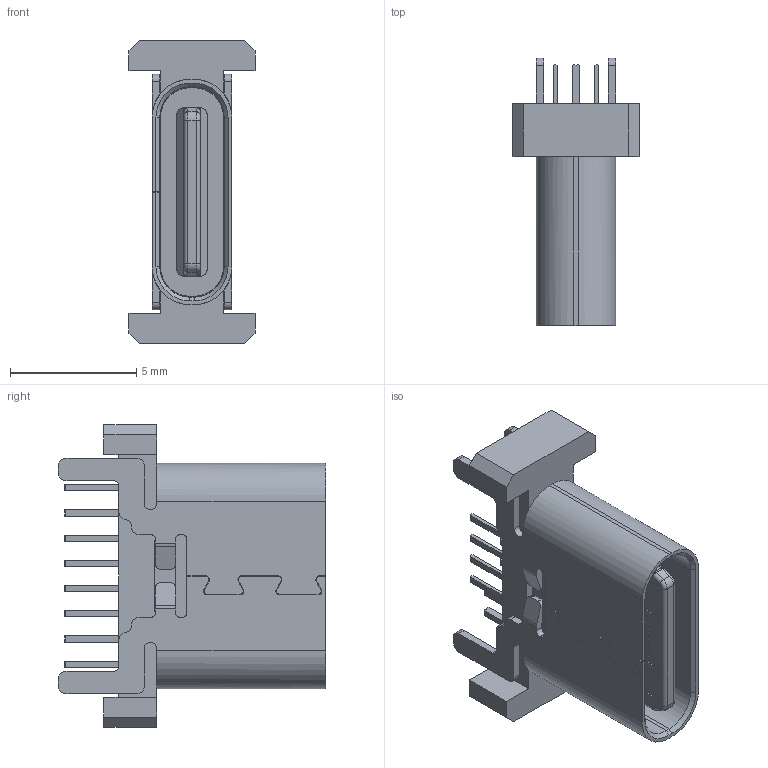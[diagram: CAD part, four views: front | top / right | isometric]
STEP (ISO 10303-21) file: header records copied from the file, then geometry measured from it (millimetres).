
FILE_DESCRIPTION (( 'STEP AP203' ), '1' );
FILE_NAME ('GT-USB-7038i.STEP', '2023-09-19T06:24:15', ( '' ), ( '' ), 'SwSTEP 2.0', 'SolidWorks 2023', '' );
FILE_SCHEMA (( 'CONFIG_CONTROL_DESIGN' ));
Length unit declared in the file: millimetre
Products named in the file (1): GT-USB-7038i
Bounding box: 5 x 10.6 x 12 mm (x, y, z)
Volume: 176.9 mm3; surface area: 618 mm2
Topology: 1 solids, 1 shells, 422 faces, 1201 edges, 786 vertices
Faces by surface type: plane 298, cylinder 112, bspline 4, torus 4, cone 4
Entity records: 13828 total; most frequent: CARTESIAN_POINT 2572, ORIENTED_EDGE 2402, DIRECTION 2263, EDGE_CURVE 1201, VECTOR 953, LINE 953, VERTEX_POINT 786, AXIS2_PLACEMENT_3D 655
